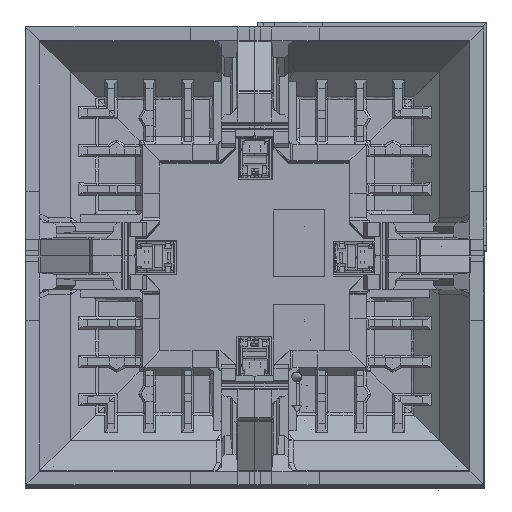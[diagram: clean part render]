
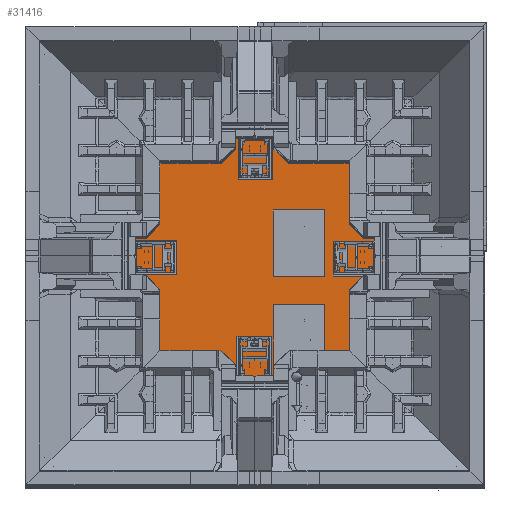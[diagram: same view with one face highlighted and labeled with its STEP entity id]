
A CAD part, top view. The second image highlights one B-rep face of the part: STEP entity #31416.
In plain terms, the highlighted planar face has unit normal (0, 0, 1).
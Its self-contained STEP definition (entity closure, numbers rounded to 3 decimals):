
#3658=B_SPLINE_CURVE_WITH_KNOTS('',1,(#395233,#395234),.UNSPECIFIED.,.F.,
 .F.,(2,2),(2.,598.),.UNSPECIFIED.);
#3661=B_SPLINE_CURVE_WITH_KNOTS('',1,(#395239,#395240),.UNSPECIFIED.,.F.,
 .F.,(2,2),(2.,598.),.UNSPECIFIED.);
#3664=B_SPLINE_CURVE_WITH_KNOTS('',1,(#395245,#395246),.UNSPECIFIED.,.F.,
 .F.,(2,2),(2.,598.),.UNSPECIFIED.);
#3666=B_SPLINE_CURVE_WITH_KNOTS('',1,(#395249,#395250),.UNSPECIFIED.,.F.,
 .F.,(2,2),(2.,598.),.UNSPECIFIED.);
#31416=ADVANCED_FACE('',(#49464),#249087,.T.);
#49464=FACE_OUTER_BOUND('',#67540,.T.);
#67540=EDGE_LOOP('',(#94150,#94151,#94152,#94153));
#94150=ORIENTED_EDGE('',*,*,#178701,.T.);
#94151=ORIENTED_EDGE('',*,*,#178693,.T.);
#94152=ORIENTED_EDGE('',*,*,#178696,.T.);
#94153=ORIENTED_EDGE('',*,*,#178699,.T.);
#178693=EDGE_CURVE('',#223194,#223191,#3658,.T.);
#178696=EDGE_CURVE('',#223191,#223195,#3661,.T.);
#178699=EDGE_CURVE('',#223195,#223197,#3664,.T.);
#178701=EDGE_CURVE('',#223197,#223194,#3666,.T.);
#223191=VERTEX_POINT('',#395185);
#223194=VERTEX_POINT('',#395188);
#223195=VERTEX_POINT('',#395189);
#223197=VERTEX_POINT('',#395191);
#249087=PLANE('',#285903);
#285903=AXIS2_PLACEMENT_3D('',#395178,#301185,$);
#301185=DIRECTION('',(0.,0.,1.));
#395178=CARTESIAN_POINT('',(1905.68,1248.674,2.));
#395185=CARTESIAN_POINT('',(1907.68,650.674,2.));
#395188=CARTESIAN_POINT('',(1907.68,1246.674,2.));
#395189=CARTESIAN_POINT('',(2503.68,650.674,2.));
#395191=CARTESIAN_POINT('',(2503.68,1246.674,2.));
#395233=CARTESIAN_POINT('',(1907.68,1246.674,2.));
#395234=CARTESIAN_POINT('',(1907.68,650.674,2.));
#395239=CARTESIAN_POINT('',(1907.68,650.674,2.));
#395240=CARTESIAN_POINT('',(2503.68,650.674,2.));
#395245=CARTESIAN_POINT('',(2503.68,650.674,2.));
#395246=CARTESIAN_POINT('',(2503.68,1246.674,2.));
#395249=CARTESIAN_POINT('',(2503.68,1246.674,2.));
#395250=CARTESIAN_POINT('',(1907.68,1246.674,2.));
